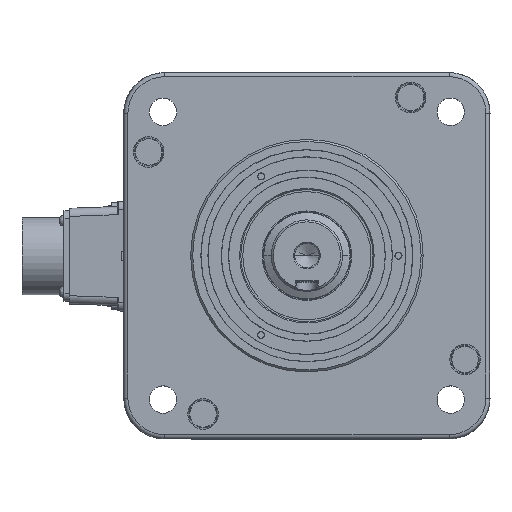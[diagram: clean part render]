
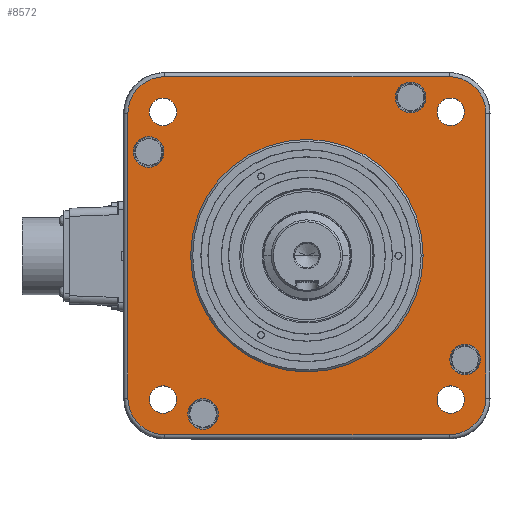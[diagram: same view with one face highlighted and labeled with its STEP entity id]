
A CAD part, top view. The second image highlights one B-rep face of the part: STEP entity #8572.
In plain terms, the highlighted planar face has unit normal (0, 0, 1).
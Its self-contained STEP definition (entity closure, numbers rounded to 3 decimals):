
#85=CARTESIAN_POINT('',(-69.969,69.969,20.));
#86=DIRECTION('',(0.,0.,-1.));
#87=DIRECTION('',(-1.,0.,0.));
#88=AXIS2_PLACEMENT_3D('',#85,#86,#87);
#90=CARTESIAN_POINT('',(69.969,69.969,20.));
#91=DIRECTION('',(0.,0.,-1.));
#92=DIRECTION('',(0.,1.,0.));
#93=AXIS2_PLACEMENT_3D('',#90,#91,#92);
#95=CARTESIAN_POINT('',(69.969,-69.969,20.));
#96=DIRECTION('',(0.,0.,-1.));
#97=DIRECTION('',(1.,0.,0.));
#98=AXIS2_PLACEMENT_3D('',#95,#96,#97);
#100=CARTESIAN_POINT('',(-69.969,-69.969,20.));
#101=DIRECTION('',(0.,0.,-1.));
#102=DIRECTION('',(0.,-1.,0.));
#103=AXIS2_PLACEMENT_3D('',#100,#101,#102);
#105=CARTESIAN_POINT('',(0.,0.,20.));
#106=DIRECTION('',(0.,0.,1.));
#107=DIRECTION('',(-1.,0.,0.));
#108=AXIS2_PLACEMENT_3D('',#105,#106,#107);
#110=CARTESIAN_POINT('',(0.,0.,20.));
#111=DIRECTION('',(0.,0.,1.));
#112=DIRECTION('',(1.,0.,0.));
#113=AXIS2_PLACEMENT_3D('',#110,#111,#112);
#115=CARTESIAN_POINT('',(-70.711,70.711,20.));
#116=DIRECTION('',(0.,0.,1.));
#117=DIRECTION('',(1.,0.,0.));
#118=AXIS2_PLACEMENT_3D('',#115,#116,#117);
#120=CARTESIAN_POINT('',(-70.711,70.711,20.));
#121=DIRECTION('',(0.,0.,1.));
#122=DIRECTION('',(-1.,0.,0.));
#123=AXIS2_PLACEMENT_3D('',#120,#121,#122);
#125=CARTESIAN_POINT('',(70.711,70.711,20.));
#126=DIRECTION('',(0.,0.,1.));
#127=DIRECTION('',(1.,0.,0.));
#128=AXIS2_PLACEMENT_3D('',#125,#126,#127);
#130=CARTESIAN_POINT('',(70.711,70.711,20.));
#131=DIRECTION('',(0.,0.,1.));
#132=DIRECTION('',(-1.,0.,0.));
#133=AXIS2_PLACEMENT_3D('',#130,#131,#132);
#135=CARTESIAN_POINT('',(70.711,-70.711,20.));
#136=DIRECTION('',(0.,0.,1.));
#137=DIRECTION('',(1.,0.,0.));
#138=AXIS2_PLACEMENT_3D('',#135,#136,#137);
#140=CARTESIAN_POINT('',(70.711,-70.711,20.));
#141=DIRECTION('',(0.,0.,1.));
#142=DIRECTION('',(-1.,0.,0.));
#143=AXIS2_PLACEMENT_3D('',#140,#141,#142);
#145=CARTESIAN_POINT('',(-70.711,-70.711,20.));
#146=DIRECTION('',(0.,0.,1.));
#147=DIRECTION('',(1.,0.,0.));
#148=AXIS2_PLACEMENT_3D('',#145,#146,#147);
#150=CARTESIAN_POINT('',(-70.711,-70.711,20.));
#151=DIRECTION('',(0.,0.,1.));
#152=DIRECTION('',(-1.,0.,0.));
#153=AXIS2_PLACEMENT_3D('',#150,#151,#152);
#155=CARTESIAN_POINT('',(51.,77.769,20.));
#156=DIRECTION('',(0.,0.,1.));
#157=DIRECTION('',(1.,0.,0.));
#158=AXIS2_PLACEMENT_3D('',#155,#156,#157);
#160=CARTESIAN_POINT('',(51.,77.769,20.));
#161=DIRECTION('',(0.,0.,1.));
#162=DIRECTION('',(-1.,0.,0.));
#163=AXIS2_PLACEMENT_3D('',#160,#161,#162);
#165=CARTESIAN_POINT('',(-77.769,51.,20.));
#166=DIRECTION('',(0.,0.,1.));
#167=DIRECTION('',(1.,0.,0.));
#168=AXIS2_PLACEMENT_3D('',#165,#166,#167);
#170=CARTESIAN_POINT('',(-77.769,51.,20.));
#171=DIRECTION('',(0.,0.,1.));
#172=DIRECTION('',(-1.,0.,0.));
#173=AXIS2_PLACEMENT_3D('',#170,#171,#172);
#175=CARTESIAN_POINT('',(-51.,-77.769,20.));
#176=DIRECTION('',(0.,0.,1.));
#177=DIRECTION('',(1.,0.,0.));
#178=AXIS2_PLACEMENT_3D('',#175,#176,#177);
#180=CARTESIAN_POINT('',(-51.,-77.769,20.));
#181=DIRECTION('',(0.,0.,1.));
#182=DIRECTION('',(-1.,0.,0.));
#183=AXIS2_PLACEMENT_3D('',#180,#181,#182);
#185=CARTESIAN_POINT('',(77.769,-51.,20.));
#186=DIRECTION('',(0.,0.,1.));
#187=DIRECTION('',(1.,0.,0.));
#188=AXIS2_PLACEMENT_3D('',#185,#186,#187);
#190=CARTESIAN_POINT('',(77.769,-51.,20.));
#191=DIRECTION('',(0.,0.,1.));
#192=DIRECTION('',(-1.,0.,0.));
#193=AXIS2_PLACEMENT_3D('',#190,#191,#192);
#195=DIRECTION('',(0.,-1.,0.));
#196=VECTOR('',#195,139.937);
#197=CARTESIAN_POINT('',(-87.969,69.969,20.));
#198=LINE('',#197,#196);
#797=DIRECTION('',(1.,0.,0.));
#798=VECTOR('',#797,139.937);
#799=CARTESIAN_POINT('',(-69.969,-87.969,20.));
#800=LINE('',#799,#798);
#1417=DIRECTION('',(0.,1.,0.));
#1418=VECTOR('',#1417,139.937);
#1419=CARTESIAN_POINT('',(87.969,-69.969,20.));
#1420=LINE('',#1419,#1418);
#1435=DIRECTION('',(-1.,0.,0.));
#1436=VECTOR('',#1435,139.937);
#1437=CARTESIAN_POINT('',(69.969,87.969,20.));
#1438=LINE('',#1437,#1436);
#6738=CARTESIAN_POINT('',(57.15,0.,20.));
#6739=VERTEX_POINT('',#6738);
#6740=CARTESIAN_POINT('',(-57.15,0.,20.));
#6741=VERTEX_POINT('',#6740);
#6742=CARTESIAN_POINT('',(-87.969,69.969,20.));
#6743=CARTESIAN_POINT('',(-69.969,87.969,20.));
#6744=VERTEX_POINT('',#6742);
#6745=VERTEX_POINT('',#6743);
#6746=CARTESIAN_POINT('',(69.969,87.969,20.));
#6747=CARTESIAN_POINT('',(87.969,69.969,20.));
#6748=VERTEX_POINT('',#6746);
#6749=VERTEX_POINT('',#6747);
#6750=CARTESIAN_POINT('',(87.969,-69.969,20.));
#6751=CARTESIAN_POINT('',(69.969,-87.969,20.));
#6752=VERTEX_POINT('',#6750);
#6753=VERTEX_POINT('',#6751);
#6754=CARTESIAN_POINT('',(-69.969,-87.969,
20.));
#6755=CARTESIAN_POINT('',(-87.969,-69.969,
20.));
#6756=VERTEX_POINT('',#6754);
#6757=VERTEX_POINT('',#6755);
#6758=CARTESIAN_POINT('',(-63.961,70.711,20.));
#6759=CARTESIAN_POINT('',(-77.461,70.711,20.));
#6760=VERTEX_POINT('',#6758);
#6761=VERTEX_POINT('',#6759);
#6762=CARTESIAN_POINT('',(77.461,70.711,20.));
#6763=CARTESIAN_POINT('',(63.961,70.711,20.));
#6764=VERTEX_POINT('',#6762);
#6765=VERTEX_POINT('',#6763);
#6766=CARTESIAN_POINT('',(77.461,-70.711,20.));
#6767=CARTESIAN_POINT('',(63.961,-70.711,20.));
#6768=VERTEX_POINT('',#6766);
#6769=VERTEX_POINT('',#6767);
#6770=CARTESIAN_POINT('',(-63.961,-70.711,20.));
#6771=CARTESIAN_POINT('',(-77.461,-70.711,20.));
#6772=VERTEX_POINT('',#6770);
#6773=VERTEX_POINT('',#6771);
#6774=CARTESIAN_POINT('',(58.524,77.769,20.));
#6775=CARTESIAN_POINT('',(43.476,77.769,20.));
#6776=VERTEX_POINT('',#6774);
#6777=VERTEX_POINT('',#6775);
#6778=CARTESIAN_POINT('',(-70.245,51.,20.));
#6779=CARTESIAN_POINT('',(-85.293,51.,20.));
#6780=VERTEX_POINT('',#6778);
#6781=VERTEX_POINT('',#6779);
#6782=CARTESIAN_POINT('',(-43.476,-77.769,20.));
#6783=CARTESIAN_POINT('',(-58.524,-77.769,20.));
#6784=VERTEX_POINT('',#6782);
#6785=VERTEX_POINT('',#6783);
#6786=CARTESIAN_POINT('',(85.293,-51.,20.));
#6787=CARTESIAN_POINT('',(70.245,-51.,20.));
#6788=VERTEX_POINT('',#6786);
#6789=VERTEX_POINT('',#6787);
#8497=CARTESIAN_POINT('',(0.,0.,20.));
#8498=DIRECTION('',(0.,0.,1.));
#8499=DIRECTION('',(-1.,0.,0.));
#8500=AXIS2_PLACEMENT_3D('',#8497,#8498,#8499);
#8501=PLANE('',#8500);
#8503=ORIENTED_EDGE('',*,*,#8502,.F.);
#8505=ORIENTED_EDGE('',*,*,#8504,.T.);
#8507=ORIENTED_EDGE('',*,*,#8506,.F.);
#8509=ORIENTED_EDGE('',*,*,#8508,.T.);
#8511=ORIENTED_EDGE('',*,*,#8510,.F.);
#8513=ORIENTED_EDGE('',*,*,#8512,.T.);
#8515=ORIENTED_EDGE('',*,*,#8514,.F.);
#8517=ORIENTED_EDGE('',*,*,#8516,.T.);
#8518=EDGE_LOOP('',(#8503,#8505,#8507,#8509,#8511,#8513,#8515,#8517));
#8519=FACE_OUTER_BOUND('',#8518,.F.);
#8520=ORIENTED_EDGE('',*,*,#8489,.T.);
#8521=ORIENTED_EDGE('',*,*,#8478,.T.);
#8522=EDGE_LOOP('',(#8520,#8521));
#8523=FACE_BOUND('',#8522,.F.);
#8525=ORIENTED_EDGE('',*,*,#8524,.T.);
#8527=ORIENTED_EDGE('',*,*,#8526,.T.);
#8528=EDGE_LOOP('',(#8525,#8527));
#8529=FACE_BOUND('',#8528,.F.);
#8531=ORIENTED_EDGE('',*,*,#8530,.T.);
#8533=ORIENTED_EDGE('',*,*,#8532,.T.);
#8534=EDGE_LOOP('',(#8531,#8533));
#8535=FACE_BOUND('',#8534,.F.);
#8537=ORIENTED_EDGE('',*,*,#8536,.T.);
#8539=ORIENTED_EDGE('',*,*,#8538,.T.);
#8540=EDGE_LOOP('',(#8537,#8539));
#8541=FACE_BOUND('',#8540,.F.);
#8543=ORIENTED_EDGE('',*,*,#8542,.T.);
#8545=ORIENTED_EDGE('',*,*,#8544,.T.);
#8546=EDGE_LOOP('',(#8543,#8545));
#8547=FACE_BOUND('',#8546,.F.);
#8549=ORIENTED_EDGE('',*,*,#8548,.T.);
#8551=ORIENTED_EDGE('',*,*,#8550,.T.);
#8552=EDGE_LOOP('',(#8549,#8551));
#8553=FACE_BOUND('',#8552,.F.);
#8555=ORIENTED_EDGE('',*,*,#8554,.T.);
#8557=ORIENTED_EDGE('',*,*,#8556,.T.);
#8558=EDGE_LOOP('',(#8555,#8557));
#8559=FACE_BOUND('',#8558,.F.);
#8561=ORIENTED_EDGE('',*,*,#8560,.T.);
#8563=ORIENTED_EDGE('',*,*,#8562,.T.);
#8564=EDGE_LOOP('',(#8561,#8563));
#8565=FACE_BOUND('',#8564,.F.);
#8567=ORIENTED_EDGE('',*,*,#8566,.T.);
#8569=ORIENTED_EDGE('',*,*,#8568,.T.);
#8570=EDGE_LOOP('',(#8567,#8569));
#8571=FACE_BOUND('',#8570,.F.);
#89=CIRCLE('',#88,18.);
#94=CIRCLE('',#93,18.);
#99=CIRCLE('',#98,18.);
#104=CIRCLE('',#103,18.);
#109=CIRCLE('',#108,57.15);
#114=CIRCLE('',#113,57.15);
#119=CIRCLE('',#118,6.75);
#124=CIRCLE('',#123,6.75);
#129=CIRCLE('',#128,6.75);
#134=CIRCLE('',#133,6.75);
#139=CIRCLE('',#138,6.75);
#144=CIRCLE('',#143,6.75);
#149=CIRCLE('',#148,6.75);
#154=CIRCLE('',#153,6.75);
#159=CIRCLE('',#158,7.524);
#164=CIRCLE('',#163,7.524);
#169=CIRCLE('',#168,7.524);
#174=CIRCLE('',#173,7.524);
#179=CIRCLE('',#178,7.524);
#184=CIRCLE('',#183,7.524);
#189=CIRCLE('',#188,7.524);
#194=CIRCLE('',#193,7.524);
#8478=EDGE_CURVE('',#6739,#6741,#114,.T.);
#8489=EDGE_CURVE('',#6741,#6739,#109,.T.);
#8502=EDGE_CURVE('',#6744,#6757,#198,.T.);
#8504=EDGE_CURVE('',#6744,#6745,#89,.T.);
#8506=EDGE_CURVE('',#6748,#6745,#1438,.T.);
#8508=EDGE_CURVE('',#6748,#6749,#94,.T.);
#8510=EDGE_CURVE('',#6752,#6749,#1420,.T.);
#8512=EDGE_CURVE('',#6752,#6753,#99,.T.);
#8514=EDGE_CURVE('',#6756,#6753,#800,.T.);
#8516=EDGE_CURVE('',#6756,#6757,#104,.T.);
#8524=EDGE_CURVE('',#6760,#6761,#119,.T.);
#8526=EDGE_CURVE('',#6761,#6760,#124,.T.);
#8530=EDGE_CURVE('',#6764,#6765,#129,.T.);
#8532=EDGE_CURVE('',#6765,#6764,#134,.T.);
#8536=EDGE_CURVE('',#6768,#6769,#139,.T.);
#8538=EDGE_CURVE('',#6769,#6768,#144,.T.);
#8542=EDGE_CURVE('',#6772,#6773,#149,.T.);
#8544=EDGE_CURVE('',#6773,#6772,#154,.T.);
#8548=EDGE_CURVE('',#6776,#6777,#159,.T.);
#8550=EDGE_CURVE('',#6777,#6776,#164,.T.);
#8554=EDGE_CURVE('',#6780,#6781,#169,.T.);
#8556=EDGE_CURVE('',#6781,#6780,#174,.T.);
#8560=EDGE_CURVE('',#6784,#6785,#179,.T.);
#8562=EDGE_CURVE('',#6785,#6784,#184,.T.);
#8566=EDGE_CURVE('',#6788,#6789,#189,.T.);
#8568=EDGE_CURVE('',#6789,#6788,#194,.T.);
#8572=ADVANCED_FACE('',(#8519,#8523,#8529,#8535,#8541,#8547,#8553,#8559,#8565,
#8571),#8501,.T.);
